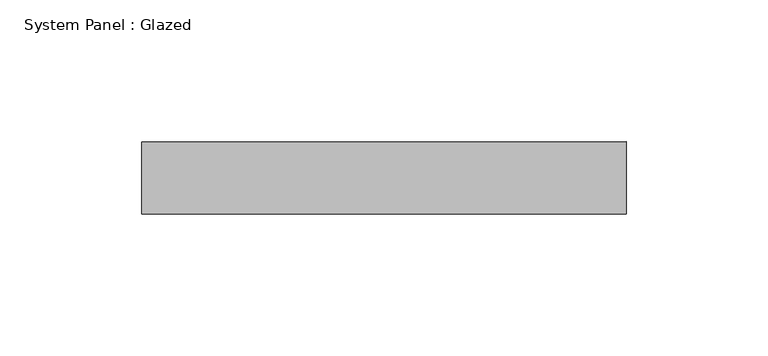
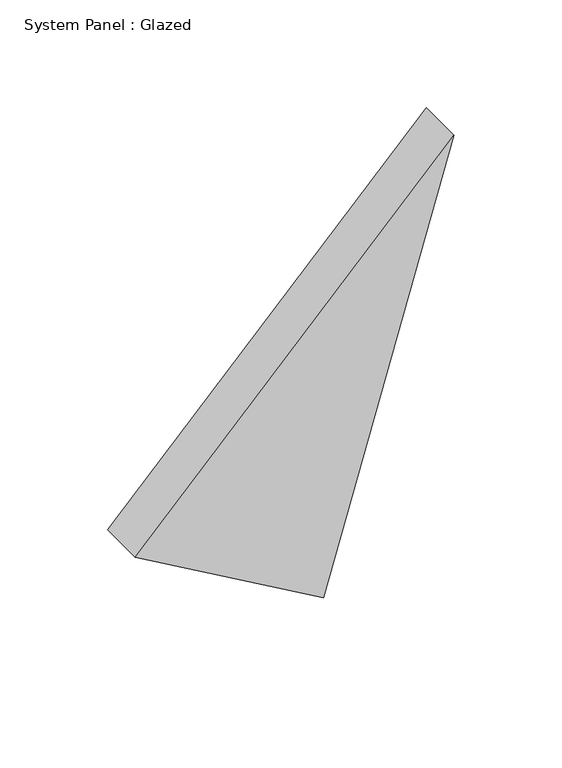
"""IFC4 building model written with IfcOpenShell, lengths in millimetres: plate geometry, System Panel : Glazed."""

import ifcopenshell
import ifcopenshell.guid

model = None  # the IFC model being written
_history = None  # IfcOwnerHistory: only IFC2X3 demands one
_inside = {}  # id of a spatial element -> (the spatial element, [elements in it])
_under = {}  # id of a project, library or spatial element -> (it, [spatial elements below it])
_declared = {}  # id of a project -> (the project, [libraries it declares])
_typed = {}  # id of a type object -> (the type object, [elements of that type])
_made_of = {}  # id of a material, layer set ... -> (it, [elements and type objects made of it])


def new_model(schema):
    """Start an empty IFC model of exactly this schema.

    Asked for "IFC4X3", IfcOpenShell would pick the latest addendum, in which some entities
    have other attributes; the version numbers below select the first issue.
    IFC2X3 requires an IfcOwnerHistory on every rooted entity: one is made here for all.
    """
    global model, _history
    if schema == "IFC4X3":
        model = ifcopenshell.file(schema_version=(4, 3, 0, 0))
    else:
        model = ifcopenshell.file(schema=schema)
    _inside.clear()
    _under.clear()
    _declared.clear()
    _typed.clear()
    _made_of.clear()
    _history = None
    if model.schema == "IFC2X3":
        org = make("IfcOrganization", Name="unknown")
        user = make(
            "IfcPersonAndOrganization",
            ThePerson=make("IfcPerson", FamilyName="unknown"),
            TheOrganization=org,
        )
        app = make(
            "IfcApplication",
            ApplicationDeveloper=org,
            Version="unknown",
            ApplicationFullName="unknown",
            ApplicationIdentifier="unknown",
        )
        _history = make(
            "IfcOwnerHistory",
            OwningUser=user,
            OwningApplication=app,
            ChangeAction="ADDED",
            CreationDate=0,
        )
    return model


def make(cls, **values):
    """One entity of the class cls with the attributes given. An attribute that is None is left unset."""
    return model.create_entity(
        cls, **{name: value for name, value in values.items() if value is not None}
    )


def rooted(cls, **values):
    """An entity with a GlobalId (a new one), such as an element, a storey or a relation."""
    return make(cls, GlobalId=ifcopenshell.guid.new(), OwnerHistory=_history, **values)


def si_unit(unit_type, name, prefix=None):
    """IfcSIUnit, for example si_unit("LENGTHUNIT", "METRE", prefix="MILLI")."""
    return make("IfcSIUnit", UnitType=unit_type, Prefix=prefix, Name=name)


def assignment(units):
    """IfcUnitAssignment: the units of a project."""
    return None if units is None else make("IfcUnitAssignment", Units=units)


def point(xyz):
    """IfcCartesianPoint."""
    return None if xyz is None else make("IfcCartesianPoint", Coordinates=xyz)


def direction(xyz):
    """IfcDirection."""
    return None if xyz is None else make("IfcDirection", DirectionRatios=xyz)


def frame(location, z_axis=None, x_axis=None):
    """IfcAxis2Placement3D, a coordinate frame: its origin and axes. An axis left out is left unset."""
    return make(
        "IfcAxis2Placement3D",
        Location=point(location),
        Axis=direction(z_axis),
        RefDirection=direction(x_axis),
    )


def origin():
    """The frame at (0, 0, 0) with its axes left unset."""
    return frame((0.0, 0.0, 0.0))


def place(relative_to, where):
    """IfcLocalPlacement: puts the frame where relative to a parent placement (None: the world)."""
    return make(
        "IfcLocalPlacement", PlacementRelTo=relative_to, RelativePlacement=where
    )


def context(
    kind, dimensions, precision=None, world=None, true_north=None, identifier=None
):
    """IfcGeometricRepresentationContext, for example the 3D "Model" context."""
    return make(
        "IfcGeometricRepresentationContext",
        ContextIdentifier=identifier,
        ContextType=kind,
        CoordinateSpaceDimension=dimensions,
        Precision=precision,
        WorldCoordinateSystem=world,
        TrueNorth=true_north,
    )


def project(units=None, contexts=None):
    """IfcProject with its units and contexts."""
    return rooted(
        "IfcProject",
        Name="project",
        RepresentationContexts=contexts,
        UnitsInContext=assignment(units),
    )


def spatial(cls, under=None, at=None, **own):
    """A site, building, storey or space (cls), placed at a placement, below another one or the project."""
    s = rooted(cls, ObjectPlacement=at, **own)
    if under is not None:
        _under.setdefault(under.id(), (under, []))[1].append(s)
    return s


def polyline(points):
    """IfcPolyline through the points."""
    return make("IfcPolyline", Points=[point(p) for p in points])


def outline(outer, holes=None, kind="AREA"):
    """IfcArbitraryClosedProfileDef: a profile drawn as a closed curve; with holes, ...WithVoids."""
    if holes is None:
        return make("IfcArbitraryClosedProfileDef", ProfileType=kind, OuterCurve=outer)
    return make(
        "IfcArbitraryProfileDefWithVoids",
        ProfileType=kind,
        OuterCurve=outer,
        InnerCurves=holes,
    )


def extrude(swept, where, along, depth):
    """IfcExtrudedAreaSolid: the profile swept, set in the frame where, extruded along a direction by depth."""
    return make(
        "IfcExtrudedAreaSolid",
        SweptArea=swept,
        Position=where,
        ExtrudedDirection=direction(along),
        Depth=depth,
    )


def shape(context_of_items, identifier, shape_type, items):
    """IfcShapeRepresentation: the items that make up one representation, for example the "Body"."""
    return make(
        "IfcShapeRepresentation",
        ContextOfItems=context_of_items,
        RepresentationIdentifier=identifier,
        RepresentationType=shape_type,
        Items=items,
    )


def source(mapping_origin, context_of_items, identifier, shape_type, items):
    """IfcRepresentationMap: a shape defined once, which mapped items show again and again."""
    return make(
        "IfcRepresentationMap",
        MappingOrigin=mapping_origin,
        MappedRepresentation=shape(context_of_items, identifier, shape_type, items),
    )


def transform(
    local_origin,
    x_axis=None,
    y_axis=None,
    z_axis=None,
    scale=None,
    scale2=None,
    scale3=None,
    uniform=True,
):
    """IfcCartesianTransformationOperator3D, or its non-uniform kind. x_axis, y_axis, z_axis: its Axis1, 2, 3."""
    if uniform:
        return make(
            "IfcCartesianTransformationOperator3D",
            Axis1=direction(x_axis),
            Axis2=direction(y_axis),
            LocalOrigin=point(local_origin),
            Scale=scale,
            Axis3=direction(z_axis),
        )
    return make(
        "IfcCartesianTransformationOperator3DnonUniform",
        Axis1=direction(x_axis),
        Axis2=direction(y_axis),
        LocalOrigin=point(local_origin),
        Scale=scale,
        Axis3=direction(z_axis),
        Scale2=scale2,
        Scale3=scale3,
    )


def mapped(mapping_source, mapping_target):
    """IfcMappedItem: shows the shape of a source again, moved by a transform."""
    return make(
        "IfcMappedItem", MappingSource=mapping_source, MappingTarget=mapping_target
    )


def made_of(thing, what):
    """Note that an element or type object is made of a material, layer set ...; save() writes the relation."""
    if what is not None:
        _made_of.setdefault(what.id(), (what, []))[1].append(thing)
    return thing


def element(
    cls,
    number,
    at=None,
    inside=None,
    cuts=None,
    type_object=None,
    material=None,
    context=None,
    identifier="Body",
    shape_type=None,
    held_by="IfcProductDefinitionShape",
    body=None,
    shapes=None,
    **own,
):
    """One element of the class cls, such as IfcWall. Its Tag is "e" and its number.

    at: its placement. inside: the storey or other place that contains it. cuts: it is an
    opening in that element (IfcRelVoidsElement). A single representation is given by context,
    identifier, shape_type and body (its items); several are given by shapes. held_by: the class
    of the entity that holds the representations. save() writes the other relations.
    """
    e = rooted(cls, Tag="e%d" % number, ObjectPlacement=at, **own)
    if body is not None:
        shapes = [shape(context, identifier, shape_type, body)]
    if shapes is not None:
        e.Representation = make(held_by, Representations=shapes)
    if inside is not None:
        _inside.setdefault(inside.id(), (inside, []))[1].append(e)
    if cuts is not None:
        rooted(
            "IfcRelVoidsElement", RelatingBuildingElement=cuts, RelatedOpeningElement=e
        )
    if type_object is not None:
        _typed.setdefault(type_object.id(), (type_object, []))[1].append(e)
    return made_of(e, material)


def aggregate(whole, parts):
    """IfcRelAggregates: a whole, such as a stair, and the parts it consists of."""
    return rooted("IfcRelAggregates", RelatingObject=whole, RelatedObjects=parts)


def save(model, path):
    """Write the relations noted so far, then the file.

    IfcRelAggregates (storeys below a building ...), IfcRelContainedInSpatialStructure (elements
    in a storey), IfcRelDefinesByType, IfcRelAssociatesMaterial and IfcRelDeclares: one each for
    every whole, place, type object, material and project.
    """
    for whole, parts in _under.values():
        aggregate(whole, parts)
    for where, things in _inside.values():
        rooted(
            "IfcRelContainedInSpatialStructure",
            RelatedElements=things,
            RelatingStructure=where,
        )
    for kind, things in _typed.values():
        rooted("IfcRelDefinesByType", RelatedObjects=things, RelatingType=kind)
    for what, things in _made_of.values():
        rooted("IfcRelAssociatesMaterial", RelatedObjects=things, RelatingMaterial=what)
    for by, libraries in _declared.values():
        rooted("IfcRelDeclares", RelatingContext=by, RelatedDefinitions=libraries)
    model.write(path)


def system_panel_glazed_6927b413(model_context):
    return source(origin(), model_context, "Body", "SweptSolid", [
        extrude(outline(polyline([(58.2475578, -85.2792404), (0.0, 15.5228005), (237.0658401, 85.2792404), (58.2475578, -85.2792404)])), frame((0.0, 19.05, 0.0), z_axis=(0.0, 1.0, 0.0), x_axis=(0.0, 0.0, 1.0)), (0.0, 0.0, 1.0), 25.4),
    ])


if __name__ == "__main__":
    model = new_model("IFC4")
    model_context = context("Model", 3, world=origin())
    ifc_project = project(units=[si_unit("LENGTHUNIT", "METRE", prefix="MILLI")], contexts=[model_context])
    site = spatial("IfcSite", under=ifc_project)
    building = spatial("IfcBuilding", under=site)
    placement = place(None, origin())
    system_panel_glazed_shape = system_panel_glazed_6927b413(model_context)
    element("IfcPlate", 1, ObjectType="System Panel : Glazed", at=placement, inside=building, context=model_context, shape_type="MappedRepresentation", body=[
        mapped(system_panel_glazed_shape, transform((0.0, 0.0, 0.0), x_axis=(1.0, 0.0, 0.0), y_axis=(0.0, 1.0, 0.0), z_axis=(0.0, 0.0, 1.0))),
    ])
    save(model, "model.ifc")
